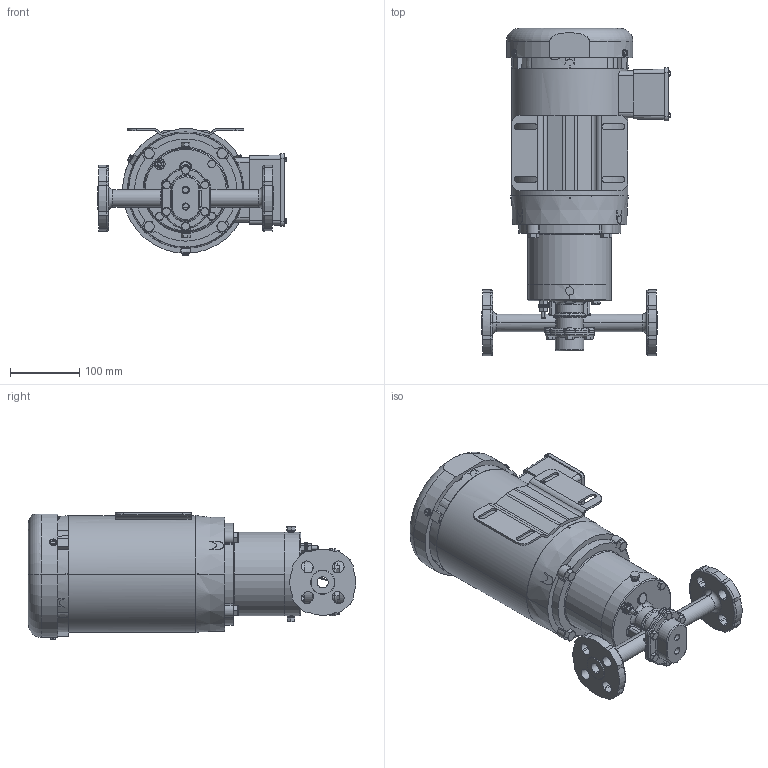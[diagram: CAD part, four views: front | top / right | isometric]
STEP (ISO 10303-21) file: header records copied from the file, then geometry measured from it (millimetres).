
FILE_DESCRIPTION (( 'STEP AP214' ), '1' );
FILE_NAME ('E05M FLNG 56C.STEP', '2025-03-05T16:35:38', ( '' ), ( '' ), 'SwSTEP 2.0', 'SolidWorks 2021', '' );
FILE_SCHEMA (( 'AUTOMOTIVE_DESIGN' ));
Length unit declared in the file: inch
Products named in the file (1): E05M FLNG 56C
Bounding box: 272.18 x 472.98 x 183.39 mm (x, y, z)
Volume: 7718156.7 mm3; surface area: 517986.4 mm2
Topology: 28 solids, 28 shells, 2389 faces, 6266 edges, 4082 vertices
Faces by surface type: plane 970, cylinder 918, cone 276, torus 137, sphere 54, bspline 34
Entity records: 116169 total; most frequent: CARTESIAN_POINT 25144, DIRECTION 12604, ORIENTED_EDGE 12492, EDGE_CURVE 6246, AXIS2_PLACEMENT_3D 4807, VERTEX_POINT 4082, VECTOR 2990, LINE 2990
